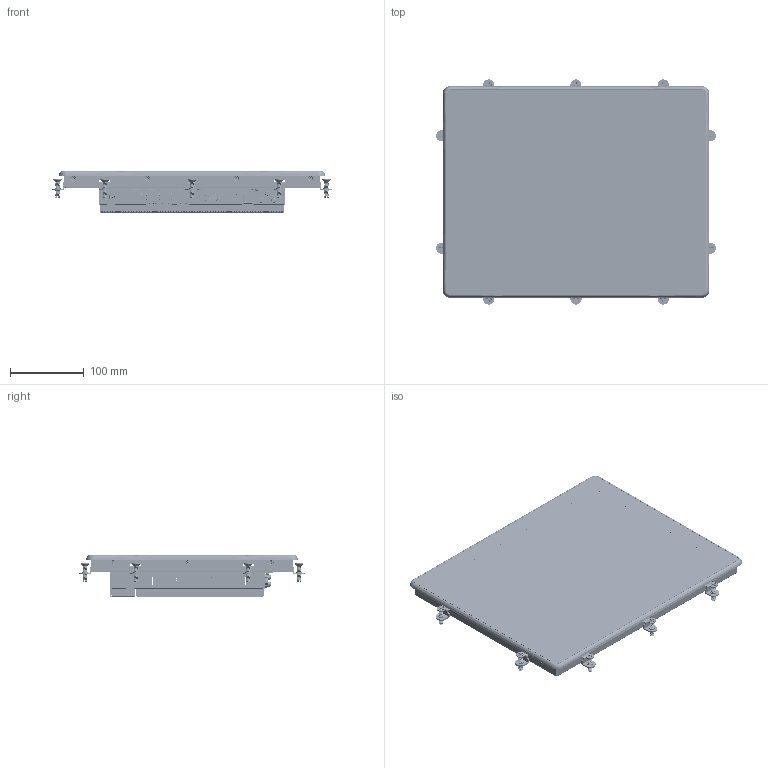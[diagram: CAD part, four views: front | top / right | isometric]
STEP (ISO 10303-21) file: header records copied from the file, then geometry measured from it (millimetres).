
FILE_DESCRIPTION((''),'2;1');
FILE_NAME('NP6A-150','2026-06-02T11:23:06',('gijyu181'),(''),'CREO PARAMETRIC BY PTC INC, 2018050','CREO PARAMETRIC BY PTC INC, 2018050','');
FILE_SCHEMA(('CONFIG_CONTROL_DESIGN','SHAPE_APPEARANCE_LAYERS_GROUPS'));
Products named in the file (1): NP6A-150
Bounding box: 378.6 x 304.6 x 56.5 mm (x, y, z)
Volume: 1121495.9 mm3; surface area: 909215.3 mm2
Topology: 18 solids, 77 shells, 33286 faces, 97916 edges, 64662 vertices
Faces by surface type: plane 22407, cylinder 8177, extrusion 1476, bspline 523, cone 479, torus 147, sphere 73, revolution 4
Entity records: 1324968 total; most frequent: CARTESIAN_POINT 309490, ORIENTED_EDGE 194927, DIRECTION 171757, EDGE_CURVE 97860, VECTOR 77179, LINE 75703, VERTEX_POINT 64663, AXIS2_PLACEMENT_3D 47287
